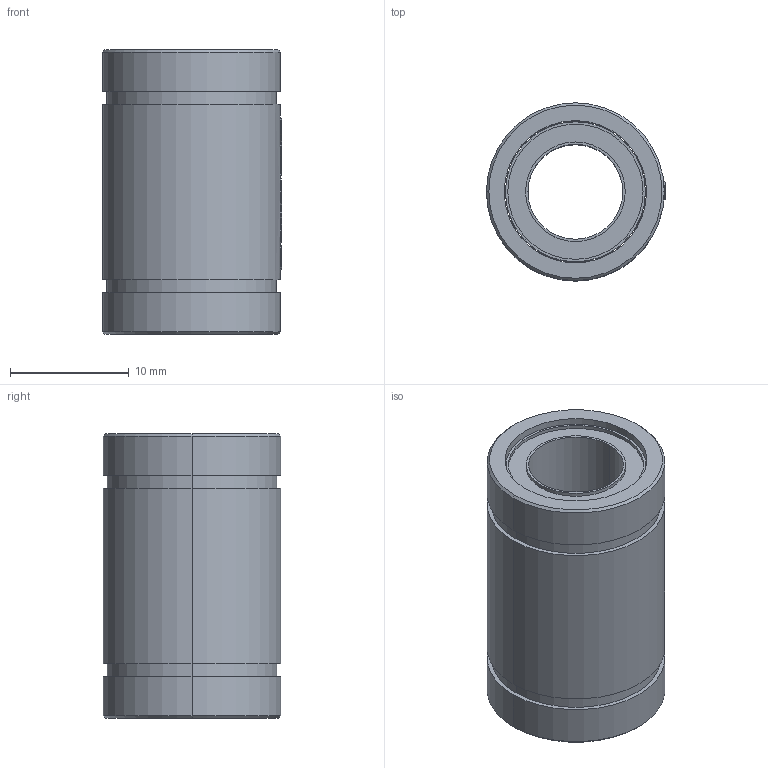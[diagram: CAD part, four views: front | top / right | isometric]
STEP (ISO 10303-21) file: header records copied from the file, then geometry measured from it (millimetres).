
FILE_DESCRIPTION (( 'STEP AP214' ), '1' );
FILE_NAME ('LM8UU.STEP', '2020-09-07T10:20:19', ( '' ), ( '' ), 'SwSTEP 2.0', 'SolidWorks 2018', '' );
FILE_SCHEMA (( 'AUTOMOTIVE_DESIGN' ));
Length unit declared in the file: millimetre
Products named in the file (3): LM8UU-2; LM8UU-1; LM8UU
Assembly tree (2 placements, depth 2):
  LM8UU
    LM8UU-1
    LM8UU-2
Bounding box: 15.1 x 15 x 24 mm (x, y, z)
Volume: 2821.2 mm3; surface area: 3804.4 mm2
Topology: 2 solids, 2 shells, 228 faces, 635 edges, 422 vertices
Faces by surface type: plane 115, cylinder 71, bspline 38, cone 4
Entity records: 9320 total; most frequent: CARTESIAN_POINT 3752, ORIENTED_EDGE 1270, DIRECTION 797, EDGE_CURVE 635, VERTEX_POINT 422, LINE 303, VECTOR 303, AXIS2_PLACEMENT_3D 247
